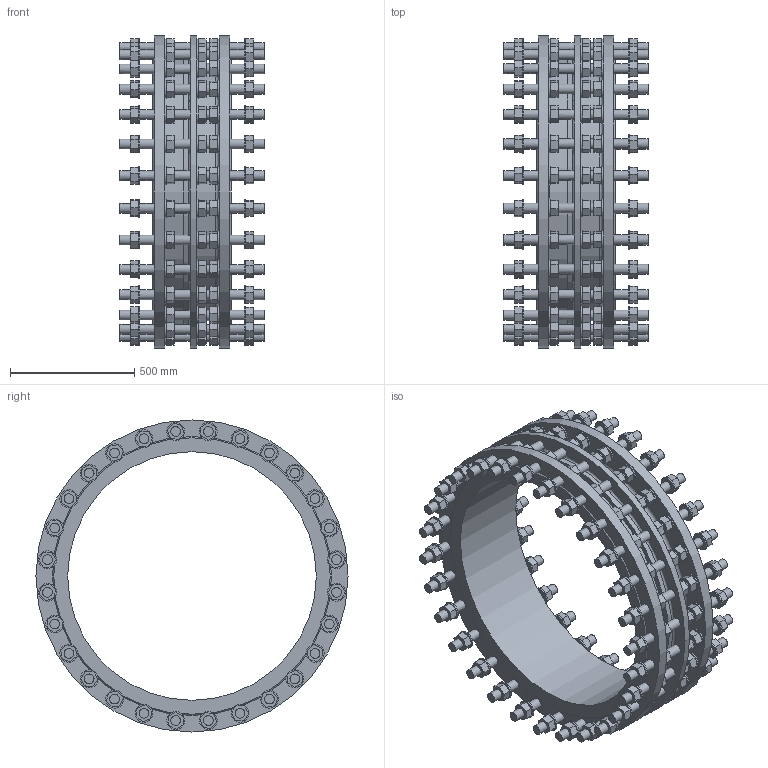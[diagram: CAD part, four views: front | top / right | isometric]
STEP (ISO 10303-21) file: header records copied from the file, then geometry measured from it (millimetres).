
FILE_DESCRIPTION (( 'STEP AP203' ), '1' );
FILE_NAME ('O_265_910_DN1000_1XXXXX00_L=315_REV01.step', '2024-10-11T10:56:14', ( '' ), ( '' ), 'SwSTEP 2.0', 'SolidWorks 2022', '' );
FILE_SCHEMA (( 'CONFIG_CONTROL_DESIGN' ));
Length unit declared in the file: millimetre
Products named in the file (1): O_265_910_DN1000_1XXXXX00_L=315_REV01
Bounding box: 580 x 1255 x 1255 mm (x, y, z)
Volume: 100395666 mm3; surface area: 6642380.4 mm2
Topology: 1 solids, 1 shells, 1601 faces, 3811 edges, 2587 vertices
Faces by surface type: plane 1280, cylinder 316, cone 3, torus 2
Full cylindrical faces by diameter (mm): 39 x168, 72 x140, 1000 x1, 1036 x1, 1082 x1, 1255 x3
Entity records: 44140 total; most frequent: CARTESIAN_POINT 8273, DIRECTION 7165, ORIENTED_EDGE 6644, EDGE_CURVE 3322, LINE 2627, VECTOR 2627, VERTEX_POINT 2417, EDGE_LOOP 2409
